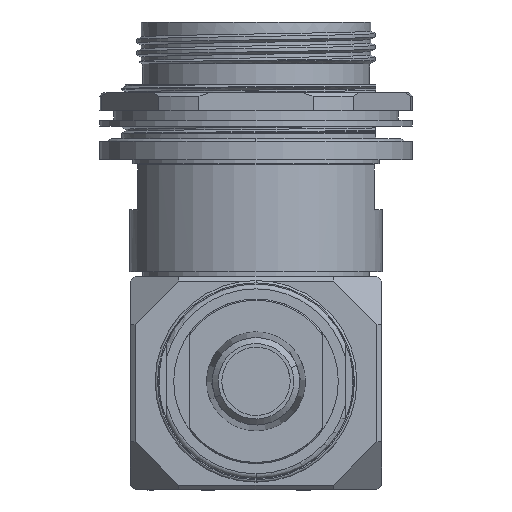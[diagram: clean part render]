
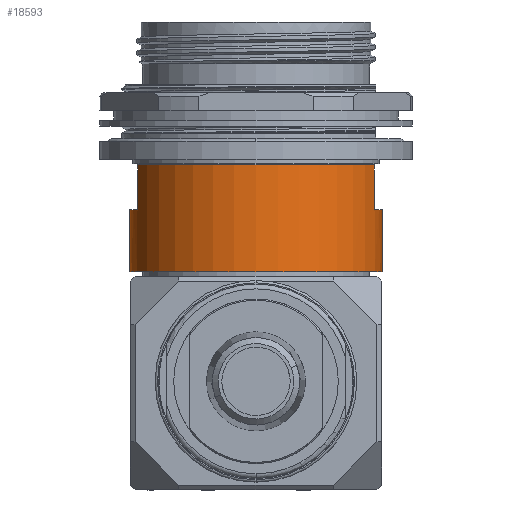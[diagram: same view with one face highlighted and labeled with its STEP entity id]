
A CAD part, front view. The second image highlights one B-rep face of the part: STEP entity #18593.
In plain terms, the highlighted cylindrical face has radius 26.797 mm (diameter 53.594 mm), a partial arc.
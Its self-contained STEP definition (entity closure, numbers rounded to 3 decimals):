
#104 = LINE ( 'NONE', #10490, #1953 ) ;
#454 = AXIS2_PLACEMENT_3D ( 'NONE', #15109, #9216, #4420 ) ;
#567 = EDGE_CURVE ( 'NONE', #11096, #16703, #13320, .T. ) ;
#1310 = LINE ( 'NONE', #13484, #13868 ) ;
#1764 = VERTEX_POINT ( 'NONE', #16373 ) ;
#1953 = VECTOR ( 'NONE', #16586, 1000. ) ;
#2126 = EDGE_CURVE ( 'NONE', #12506, #10480, #2645, .T. ) ;
#2360 = DIRECTION ( 'NONE',  ( 0., 0., 1. ) ) ;
#2645 = CIRCLE ( 'NONE', #16668, 26.797 ) ;
#2872 = ORIENTED_EDGE ( 'NONE', *, *, #13591, .F. ) ;
#3708 = ORIENTED_EDGE ( 'NONE', *, *, #13762, .F. ) ;
#3850 = CARTESIAN_POINT ( 'NONE',  ( 0., 0., -39.853 ) ) ;
#3970 = AXIS2_PLACEMENT_3D ( 'NONE', #6249, #12432, #4637 ) ;
#4049 = DIRECTION ( 'NONE',  ( 0., 0., -1. ) ) ;
#4398 = DIRECTION ( 'NONE',  ( 0., 0., 1. ) ) ;
#4420 = DIRECTION ( 'NONE',  ( 1., 0., 0. ) ) ;
#4637 = DIRECTION ( 'NONE',  ( 1., 0., 0. ) ) ;
#4668 = DIRECTION ( 'NONE',  ( 0., 0., -1. ) ) ;
#5351 = CARTESIAN_POINT ( 'NONE',  ( 26.797, 0., -30.328 ) ) ;
#5405 = CARTESIAN_POINT ( 'NONE',  ( 26.797, 0., -53.01 ) ) ;
#5446 = VECTOR ( 'NONE', #4049, 1000. ) ;
#5716 = CARTESIAN_POINT ( 'NONE',  ( 0., 0., -39.853 ) ) ;
#5757 = LINE ( 'NONE', #5351, #5446 ) ;
#5905 = DIRECTION ( 'NONE',  ( 0., 0., -1. ) ) ;
#6087 = EDGE_CURVE ( 'NONE', #11269, #11096, #1310, .T. ) ;
#6249 = CARTESIAN_POINT ( 'NONE',  ( 0., 0., -30.328 ) ) ;
#6902 = ORIENTED_EDGE ( 'NONE', *, *, #7408, .F. ) ;
#6950 = AXIS2_PLACEMENT_3D ( 'NONE', #5716, #4398, #11811 ) ;
#7028 = CARTESIAN_POINT ( 'NONE',  ( 25.146, -9.261, -30.328 ) ) ;
#7033 = VECTOR ( 'NONE', #12748, 1000. ) ;
#7408 = EDGE_CURVE ( 'NONE', #18543, #7954, #9853, .T. ) ;
#7632 = ORIENTED_EDGE ( 'NONE', *, *, #18034, .T. ) ;
#7954 = VERTEX_POINT ( 'NONE', #11419 ) ;
#9059 = ORIENTED_EDGE ( 'NONE', *, *, #6087, .F. ) ;
#9216 = DIRECTION ( 'NONE',  ( 0., 0., -1. ) ) ;
#9597 = CIRCLE ( 'NONE', #15988, 26.797 ) ;
#9853 = LINE ( 'NONE', #16038, #7033 ) ;
#10455 = ORIENTED_EDGE ( 'NONE', *, *, #567, .F. ) ;
#10480 = VERTEX_POINT ( 'NONE', #11648 ) ;
#10490 = CARTESIAN_POINT ( 'NONE',  ( -26.797, 0., -30.328 ) ) ;
#10920 = CARTESIAN_POINT ( 'NONE',  ( 25.146, -9.261, -39.853 ) ) ;
#11063 = DIRECTION ( 'NONE',  ( 1., 0., 0. ) ) ;
#11096 = VERTEX_POINT ( 'NONE', #10920 ) ;
#11269 = VERTEX_POINT ( 'NONE', #7028 ) ;
#11419 = CARTESIAN_POINT ( 'NONE',  ( -25.146, -9.261, -30.328 ) ) ;
#11616 = ORIENTED_EDGE ( 'NONE', *, *, #14514, .T. ) ;
#11648 = CARTESIAN_POINT ( 'NONE',  ( -26.797, 0., -53.01 ) ) ;
#11811 = DIRECTION ( 'NONE',  ( 1., 0., 0. ) ) ;
#12432 = DIRECTION ( 'NONE',  ( 0., 0., -1. ) ) ;
#12506 = VERTEX_POINT ( 'NONE', #5405 ) ;
#12600 = CARTESIAN_POINT ( 'NONE',  ( 26.797, 0., -39.853 ) ) ;
#12695 = EDGE_LOOP ( 'NONE', ( #3708, #11616, #15966, #2872, #10455, #9059, #7632, #6902 ) ) ;
#12748 = DIRECTION ( 'NONE',  ( 0., 0., 1. ) ) ;
#13320 = CIRCLE ( 'NONE', #6950, 26.797 ) ;
#13419 = FACE_OUTER_BOUND ( 'NONE', #12695, .T. ) ;
#13484 = CARTESIAN_POINT ( 'NONE',  ( 25.146, -9.261, -30.328 ) ) ;
#13591 = EDGE_CURVE ( 'NONE', #16703, #12506, #5757, .T. ) ;
#13762 = EDGE_CURVE ( 'NONE', #1764, #18543, #9597, .T. ) ;
#13868 = VECTOR ( 'NONE', #5905, 1000. ) ;
#14061 = CARTESIAN_POINT ( 'NONE',  ( 0., 0., -53.01 ) ) ;
#14514 = EDGE_CURVE ( 'NONE', #1764, #10480, #104, .T. ) ;
#15109 = CARTESIAN_POINT ( 'NONE',  ( 0., 0., -30.328 ) ) ;
#15966 = ORIENTED_EDGE ( 'NONE', *, *, #2126, .F. ) ;
#15988 = AXIS2_PLACEMENT_3D ( 'NONE', #3850, #2360, #16144 ) ;
#16038 = CARTESIAN_POINT ( 'NONE',  ( -25.146, -9.261, -30.328 ) ) ;
#16144 = DIRECTION ( 'NONE',  ( 1., 0., 0. ) ) ;
#16373 = CARTESIAN_POINT ( 'NONE',  ( -26.797, 0., -39.853 ) ) ;
#16516 = CARTESIAN_POINT ( 'NONE',  ( -25.146, -9.261, -39.853 ) ) ;
#16586 = DIRECTION ( 'NONE',  ( 0., 0., -1. ) ) ;
#16668 = AXIS2_PLACEMENT_3D ( 'NONE', #14061, #4668, #11063 ) ;
#16703 = VERTEX_POINT ( 'NONE', #12600 ) ;
#17915 = CYLINDRICAL_SURFACE ( 'NONE', #454, 26.797 ) ;
#18034 = EDGE_CURVE ( 'NONE', #11269, #7954, #19585, .T. ) ;
#18543 = VERTEX_POINT ( 'NONE', #16516 ) ;
#18593 = ADVANCED_FACE ( 'NONE', ( #13419 ), #17915, .T. ) ;
#19585 = CIRCLE ( 'NONE', #3970, 26.797 ) ;
